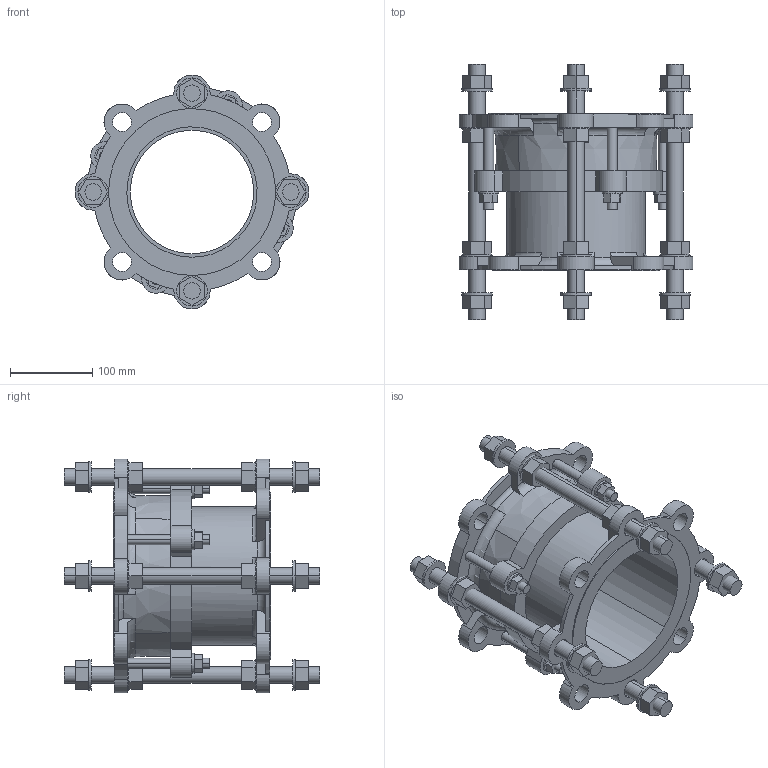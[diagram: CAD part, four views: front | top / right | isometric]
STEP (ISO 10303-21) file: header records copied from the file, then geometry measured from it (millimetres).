
FILE_DESCRIPTION((''),'2;1');
FILE_NAME('DJ_150PN10-16_ASM','2018-10-22T',('mfairey'),('Glynwed Pipe Systems'),'CREO PARAMETRIC BY PTC INC, 2016130','CREO PARAMETRIC BY PTC INC, 2016130','');
FILE_SCHEMA(('CONFIG_CONTROL_DESIGN'));
Length unit declared in the file: millimetre
Products named in the file (5): 12491_BIM; 12518_BIM_12; 13521_BIM; TIE_BOLT_BIM; DJ_150PN10-16_ASM
Assembly tree (7 placements, depth 2):
  DJ_150PN10-16_ASM
    12491_BIM
    12518_BIM_12
    13521_BIM
    TIE_BOLT_BIM  x4
Bounding box: 284 x 310 x 284 mm (x, y, z)
Volume: 1813082.7 mm3; surface area: 662489.7 mm2
Topology: 19 solids, 23 shells, 497 faces, 1192 edges, 794 vertices
Faces by surface type: plane 283, cylinder 184, torus 24, cone 6
Entity records: 10403 total; most frequent: CARTESIAN_POINT 2239, DIRECTION 1738, ORIENTED_EDGE 1628, EDGE_CURVE 814, AXIS2_PLACEMENT_3D 649, VERTEX_POINT 542, VECTOR 440, LINE 440
